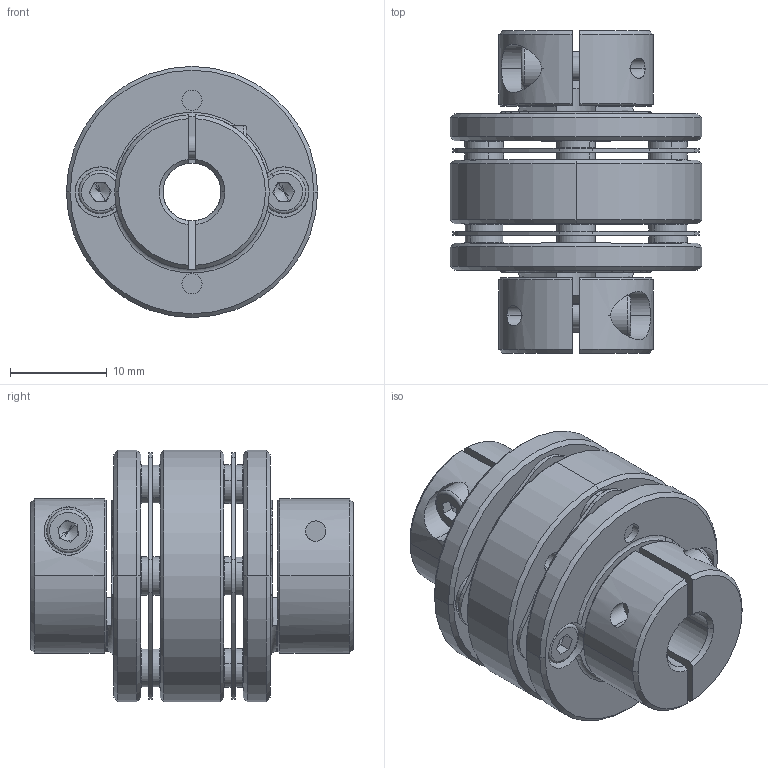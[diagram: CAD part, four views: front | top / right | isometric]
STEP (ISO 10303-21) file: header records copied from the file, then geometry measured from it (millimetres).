
FILE_DESCRIPTION (( 'STEP AP203' ), '1' );
FILE_NAME ('LE2-B-D26L35-6-6.STEP', '2021-11-01T05:43:08', ( '' ), ( '' ), 'SwSTEP 2.0', 'SolidWorks 2018', '' );
FILE_SCHEMA (( 'CONFIG_CONTROL_DESIGN' ));
Length unit declared in the file: millimetre
Products named in the file (1): LE2-B-D26L35-6-6
Bounding box: 26 x 33.4 x 26 mm (x, y, z)
Volume: 7812.9 mm3; surface area: 8413.9 mm2
Topology: 1 solids, 19 shells, 672 faces, 1560 edges, 938 vertices
Faces by surface type: cylinder 228, plane 218, cone 202, torus 24
Entity records: 19395 total; most frequent: DIRECTION 3628, CARTESIAN_POINT 3491, ORIENTED_EDGE 3080, EDGE_CURVE 1540, AXIS2_PLACEMENT_3D 1467, VERTEX_POINT 938, CIRCLE 794, EDGE_LOOP 782
